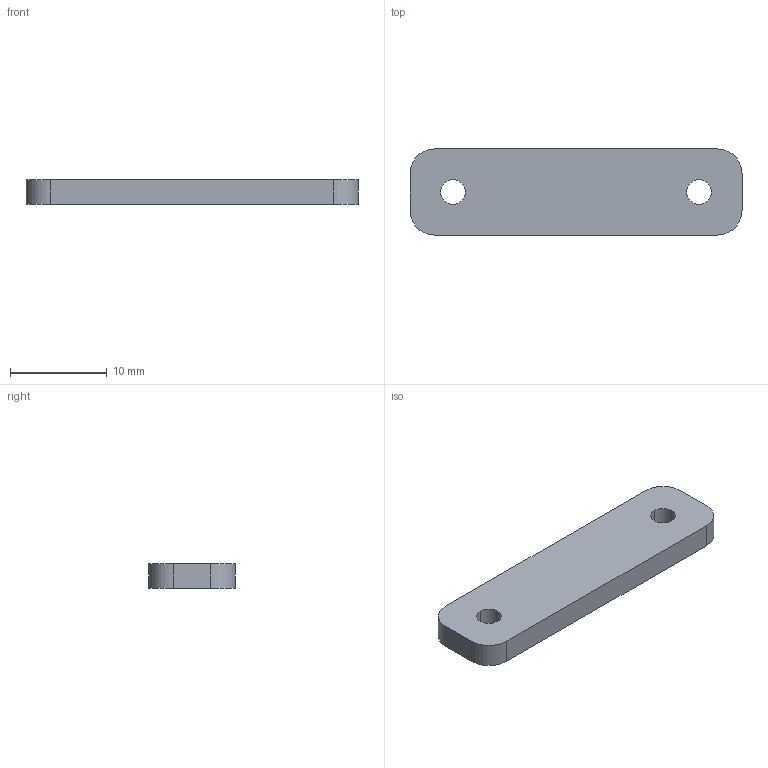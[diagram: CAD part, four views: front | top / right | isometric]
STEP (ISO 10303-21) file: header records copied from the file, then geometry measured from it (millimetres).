
FILE_DESCRIPTION (( 'STEP AP214' ), '1' );
FILE_NAME ('Neopixel Holder - Wall Clock V2.STEP', '2022-01-29T17:17:10', ( '' ), ( '' ), 'SwSTEP 2.0', 'SolidWorks 2019', '' );
FILE_SCHEMA (( 'AUTOMOTIVE_DESIGN' ));
Length unit declared in the file: inch
Products named in the file (1): Neopixel Holder - Wall Clock V2
Bounding box: 34.29 x 8.89 x 2.54 mm (x, y, z)
Volume: 734.5 mm3; surface area: 827.1 mm2
Topology: 1 solids, 1 shells, 14 faces, 36 edges, 24 vertices
Faces by surface type: cylinder 8, plane 6
Entity records: 484 total; most frequent: DIRECTION 82, CARTESIAN_POINT 75, ORIENTED_EDGE 72, EDGE_CURVE 36, AXIS2_PLACEMENT_3D 31, VERTEX_POINT 24, LINE 20, VECTOR 20
